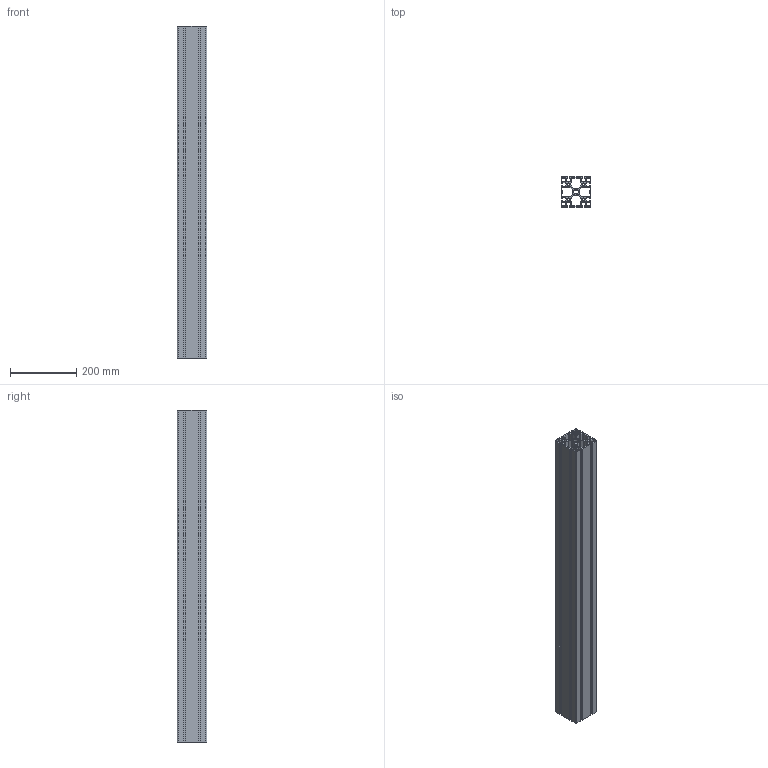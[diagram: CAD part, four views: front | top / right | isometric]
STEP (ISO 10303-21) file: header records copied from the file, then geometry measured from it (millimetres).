
FILE_DESCRIPTION (( 'STEP AP214' ), '1' );
FILE_NAME ('SA01004.step', '2024-12-03T16:28:20', ( '' ), ( '' ), 'SwSTEP 2.0', 'SolidWorks 2023', '' );
FILE_SCHEMA (( 'AUTOMOTIVE_DESIGN' ));
Length unit declared in the file: millimetre
Products named in the file (1): SA01004
Bounding box: 90 x 90 x 1000 mm (x, y, z)
Volume: 2274335.9 mm3; surface area: 1425323.2 mm2
Topology: 1 solids, 1 shells, 183 faces, 543 edges, 362 vertices
Faces by surface type: plane 94, cylinder 89
Full cylindrical faces by diameter (mm): 7.5 x4, 14 x1
Entity records: 6225 total; most frequent: CARTESIAN_POINT 1084, DIRECTION 1084, ORIENTED_EDGE 1076, EDGE_CURVE 538, VERTEX_POINT 362, AXIS2_PLACEMENT_3D 362, LINE 360, VECTOR 360
